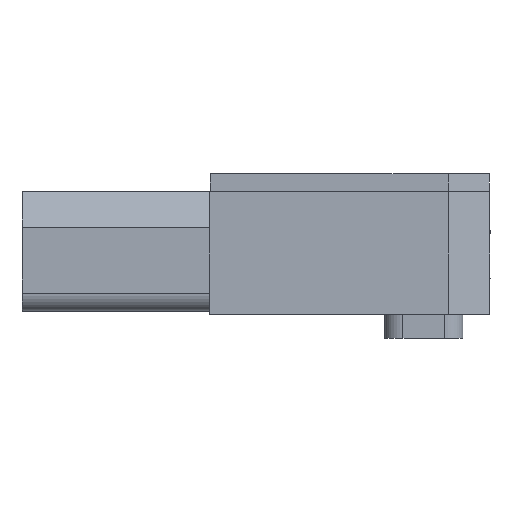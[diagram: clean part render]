
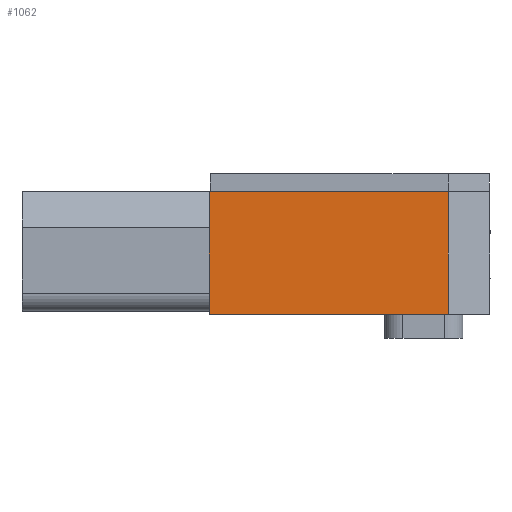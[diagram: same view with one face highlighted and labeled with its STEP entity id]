
A CAD part, front view. The second image highlights one B-rep face of the part: STEP entity #1062.
In plain terms, the highlighted planar face has unit normal (0, -1, 0).
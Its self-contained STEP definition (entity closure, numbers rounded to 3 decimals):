
#1062=ADVANCED_FACE('',(#2782),#2783,.T.);
#2782=FACE_OUTER_BOUND('',#5374,.T.);
#2783=PLANE('',#5375);
#5374=EDGE_LOOP('',(#8607,#8608,#8609,#8610));
#5375=AXIS2_PLACEMENT_3D('',#8611,#8612,#8613);
#8607=ORIENTED_EDGE('',*,*,#15901,.F.);
#8608=ORIENTED_EDGE('',*,*,#15639,.F.);
#8609=ORIENTED_EDGE('',*,*,#15902,.F.);
#8610=ORIENTED_EDGE('',*,*,#15903,.T.);
#8611=CARTESIAN_POINT('',(93.5,0.0,0.0));
#8612=DIRECTION('',(0.0,-1.0,0.0));
#8613=DIRECTION('',(0.0,0.0,-1.0));
#15639=EDGE_CURVE('',#18448,#18449,#18450,.T.);
#15901=EDGE_CURVE('',#18449,#18903,#18904,.T.);
#15902=EDGE_CURVE('',#18905,#18448,#18906,.T.);
#15903=EDGE_CURVE('',#18905,#18903,#18907,.T.);
#18448=VERTEX_POINT('',#22653);
#18449=VERTEX_POINT('',#22654);
#18450=LINE('',#22655,#22656);
#18903=VERTEX_POINT('',#23373);
#18904=LINE('',#23374,#23375);
#18905=VERTEX_POINT('',#23376);
#18906=LINE('',#23377,#23378);
#18907=LINE('',#23379,#23380);
#22653=CARTESIAN_POINT('',(0.0,0.0,41.0));
#22654=CARTESIAN_POINT('',(79.644,0.0,41.0));
#22655=CARTESIAN_POINT('',(93.5,0.0,41.0));
#22656=VECTOR('',#29299,1.0);
#23373=CARTESIAN_POINT('',(79.644,0.0,0.0));
#23374=CARTESIAN_POINT('',(79.644,0.0,0.0));
#23375=VECTOR('',#29472,1.0);
#23376=CARTESIAN_POINT('',(0.0,0.0,0.0));
#23377=CARTESIAN_POINT('',(0.0,0.0,0.0));
#23378=VECTOR('',#29473,1.0);
#23379=CARTESIAN_POINT('',(93.5,0.0,0.0));
#23380=VECTOR('',#29474,1.0);
#29299=DIRECTION('',(1.0,0.0,0.0));
#29472=DIRECTION('',(0.0,0.0,-1.0));
#29473=DIRECTION('',(0.0,0.0,1.0));
#29474=DIRECTION('',(1.0,0.0,0.0));
